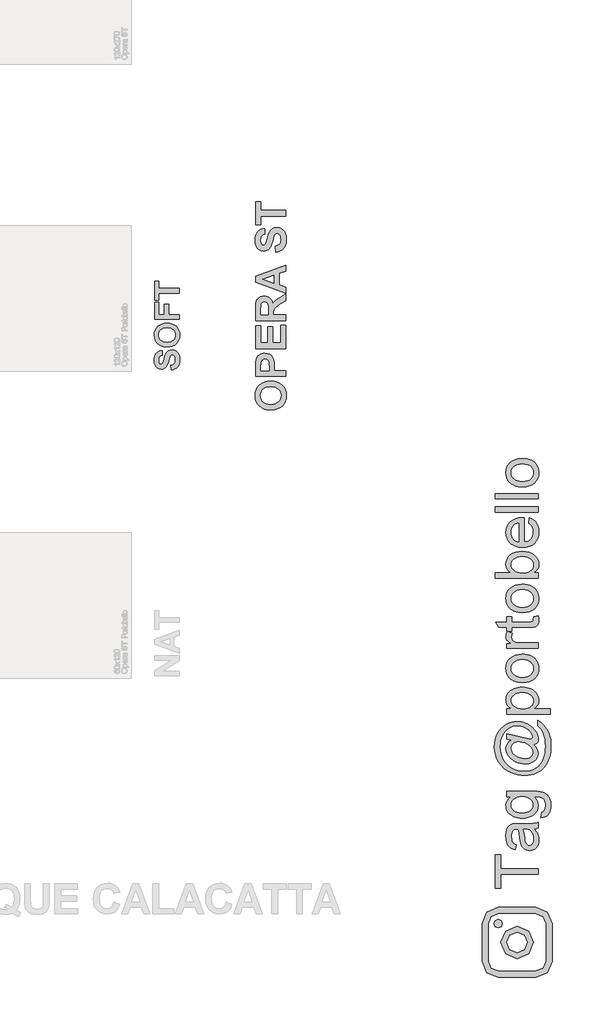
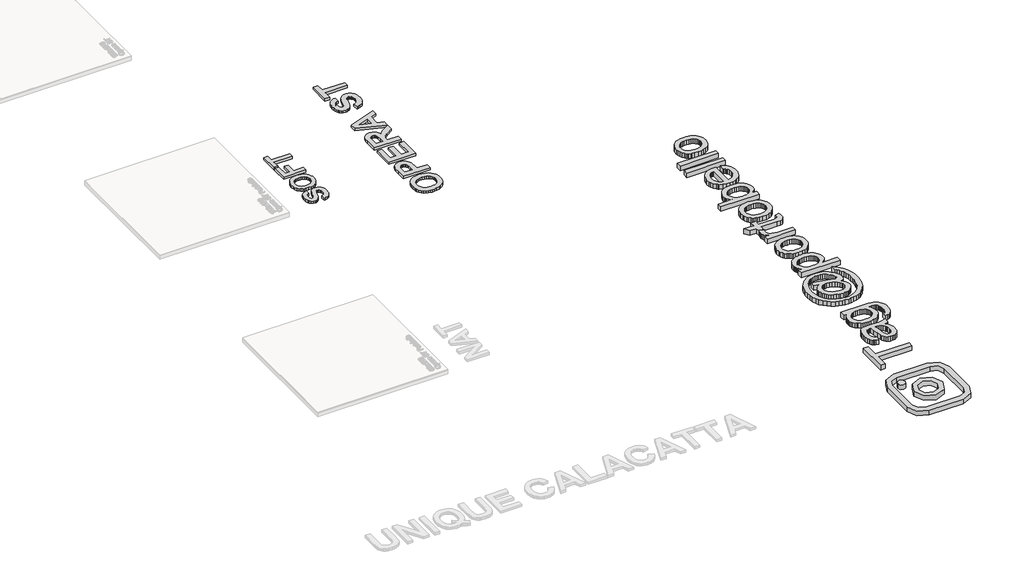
# One storey, part 4 of 6: 5 proxies.
"""IFC4 building model written with IfcOpenShell, lengths in millimetres."""

from ifc_helpers import new_model, si_unit, origin, origin_with_axes, place, context, project, spatial, polyline, outline, extrude, transform, mapped, element, save
from components import generic_models_d67f6705

model = new_model("IFC4")

# Units and contexts
model_context = context("Model", 3, world=origin())
ifc_project = project(units=[si_unit("LENGTHUNIT", "METRE", prefix="MILLI")], contexts=[model_context])

# Site, building, storey
site = spatial("IfcSite", under=ifc_project)
building = spatial("IfcBuilding", under=site)
storey = spatial("IfcBuildingStorey", under=building, Name="PORTOBELLO - SHOWROOM", Elevation=0.0)

# Proxies
placement = place(None, origin())
generic_models_shape = generic_models_d67f6705(model_context)
element("IfcBuildingElementProxy", 1, Name="Blks_Instagram1 : Único", ObjectType="Blks_Instagram1 : Único", at=placement, inside=storey, context=model_context, shape_type="MappedRepresentation", body=[
    mapped(generic_models_shape, transform((1999.5235049, -12631.2406298, 0.0), x_axis=(-1.0, 0.0, 0.0), y_axis=(0.0, -1.0, 0.0), z_axis=(0.0, 0.0, 1.0))),
])
element("IfcBuildingElementProxy", 2, Name="450mm Arial", ObjectType="450mm Arial", at=placement, inside=storey, context=model_context, shape_type="SweptSolid", body=[
    extrude(outline(polyline([(-4423.3659429, -2002.7455376), (-4430.65351, -1915.2947319), (-4391.5397708, -1902.5414894), (-4376.466463, -1892.9196234), (-4364.3821963, -1881.1342609), (-4355.1161686, -1867.1498181), (-4348.4975773, -1850.9307111), (-4343.2027043, -1811.7885048), (-4347.8855356, -1771.1660114), (-4353.7390746, -1755.1461739), (-4361.9340293, -1741.9872758), (-4382.245276, -1724.3946332), (-4405.7163662, -1718.530419), (-4420.5904046, -1720.9643526), (-4433.1016771, -1728.2661533), (-4443.6771896, -1741.6599046), (-4452.7439479, -1762.3696901), (-4472.2154164, -1838.2059357), (-4492.3416272, -1902.9400282), (-4504.0914059, -1926.8096573), (-4516.9656334, -1945.0143416), (-4536.8996916, -1963.8951186), (-4558.8976115, -1977.3813879), (-4582.9593933, -1985.4731495), (-4609.0850368, -1988.1704033), (-4642.9039031, -1983.217135), (-4674.4454046, -1968.3573301), (-4701.2329073, -1944.1603299), (-4720.7897769, -1911.1954754), (-4732.7459417, -1870.0036408), (-4736.73133, -1821.1257002), (-4734.2475791, -1780.6918011), (-4726.7963264, -1745.5883588), (-4714.3775718, -1715.8153733), (-4696.9913155, -1691.3728446), (-4675.463102, -1672.1824884), (-4650.6184761, -1658.1660201), (-4622.4574378, -1649.3234399), (-4590.9799872, -1645.6547476), (-4590.9799872, -1733.1055533), (-4621.0269681, -1742.7701199), (-4641.2528136, -1759.4660501), (-4652.739272, -1784.7305651), (-4656.5680915, -1820.1008861), (-4652.497302, -1857.3357995), (-4640.2849336, -1885.4612539), (-4628.0440982, -1896.9050117), (-4612.2733474, -1900.7195976), (-4597.3850755, -1897.2466164), (-4584.8311024, -1886.8276727), (-4570.1278664, -1856.5814224), (-4554.9406903, -1801.1418247), (-4539.1414725, -1741.9730422), (-4522.6021111, -1700.5392377), (-4502.575535, -1671.5028373), (-4476.3146729, -1649.5262677), (-4443.4921537, -1635.6912769), (-4403.7806062, -1631.0796133), (-4365.8624834, -1636.5310552), (-4330.4494618, -1652.8853806), (-4300.672918, -1679.2174103), (-4279.6642283, -1714.6019649), (-4267.1956564, -1759.4233495), (-4263.0394658, -1814.0658695), (-4265.5979427, -1854.930333), (-4273.2733735, -1890.7561269), (-4286.0657582, -1921.5432514), (-4303.9750968, -1947.2917064), (-4326.7878864, -1968.179411), (-4354.2906239, -1984.3842844), (-4386.4833094, -1995.9063266), (-4423.3659429, -2002.7455376)])), origin_with_axes(), (0.0, 0.0, 1.0), 50.0),
    extrude(outline(polyline([(-4497.038692, -1572.7790762), (-4561.4311798, -1567.6265385), (-4589.4000654, -1561.1858663), (-4614.5507122, -1552.1689254), (-4647.7290696, -1533.9927081), (-4677.3490446, -1510.2084802), (-4701.5887455, -1482.3534628), (-4718.6262804, -1451.9648772), (-4732.2050676, -1406.5883849), (-4736.73133, -1354.7214031), (-4732.8064343, -1307.3949173), (-4721.0317469, -1265.0501668), (-4701.407268, -1227.6871516), (-4673.9329975, -1195.3058718), (-4639.4700641, -1169.1517613), (-4598.8795961, -1150.4702537), (-4552.1615936, -1139.2613491), (-4499.3160567, -1135.5250476), (-4446.8299164, -1139.2328821), (-4400.3930262, -1150.3563855), (-4360.005386, -1168.8955577), (-4325.6669959, -1194.8503989), (-4298.2674515, -1227.0181757), (-4278.6963483, -1264.196155), (-4266.9536864, -1306.3843367), (-4263.0394658, -1353.5827207), (-4266.9358945, -1401.2792783), (-4278.6251806, -1443.8232982), (-4298.1073243, -1481.2147804), (-4325.3823253, -1513.4537249), (-4359.4894205, -1539.4085661), (-4399.4678467, -1557.9477384), (-4445.3176039, -1569.0712417), (-4497.038692, -1572.7790762)]), holes=[polyline([(-4500.2270026, -1485.3282705), (-4463.9101519, -1483.0046468), (-4432.2761324, -1476.0337757), (-4405.3249442, -1464.4156571), (-4383.0565871, -1448.1502912), (-4365.6205134, -1428.3051926), (-4353.166175, -1405.947876), (-4345.693572, -1381.0783415), (-4343.2027043, -1353.696589), (-4345.6757801, -1326.3433035), (-4353.0950074, -1301.5591701), (-4365.4603862, -1279.3441888), (-4382.7719166, -1259.6983596), (-4405.0295984, -1243.6322631), (-4432.2334318, -1232.1564799), (-4464.3834168, -1225.27101), (-4501.4795532, -1222.9758533), (-4538.0597242, -1225.2105175), (-4569.6866269, -1231.9145099), (-4596.3602614, -1243.0878306), (-4618.0806275, -1258.7304796), (-4634.918893, -1278.0738463), (-4646.9462255, -1300.3493201), (-4654.162625, -1325.556901), (-4656.5680915, -1353.696589), (-4654.1341579, -1381.864744), (-4646.8323572, -1407.157726), (-4634.6626894, -1429.5755351), (-4617.6251545, -1449.1181712), (-4595.6841687, -1464.9600897), (-4568.8041481, -1476.2757457), (-4536.9850927, -1483.0651393), (-4500.2270026, -1485.3282705)])]), origin_with_axes(), (0.0, 0.0, 1.0), 50.0),
    extrude(outline(polyline([(-4270.3270329, -1062.6493762), (-4729.4437629, -1062.6493762), (-4729.4437629, -749.2839891), (-4649.2805243, -749.2839891), (-4649.2805243, -975.1985705), (-4547.2545843, -975.1985705), (-4547.2545843, -778.4342576), (-4467.0913458, -778.4342576), (-4467.0913458, -975.1985705), (-4270.3270329, -975.1985705), (-4270.3270329, -1062.6493762)])), origin_with_axes(), (0.0, 0.0, 1.0), 50.0),
    extrude(outline(polyline([(-4270.3270329, -574.3823777), (-4649.2805243, -574.3823777), (-4649.2805243, -705.5585862), (-4729.4437629, -705.5585862), (-4729.4437629, -355.7553634), (-4649.2805243, -355.7553634), (-4649.2805243, -486.9315719), (-4270.3270329, -486.9315719), (-4270.3270329, -574.3823777)])), origin_with_axes(), (0.0, 0.0, 1.0), 50.0),
])
element("IfcBuildingElementProxy", 3, Name="550mm Arial", ObjectType="550mm Arial", at=placement, inside=storey, context=model_context, shape_type="SweptSolid", body=[
    extrude(outline(polyline([(-2570.8501578, -2744.4200701), (-2611.9233796, -2742.8456836), (-2649.5520873, -2738.122524), (-2683.7362809, -2730.2505914), (-2714.4759602, -2719.2298857), (-2755.027286, -2697.0145091), (-2791.2294777, -2667.9448972), (-2820.8557788, -2633.8998759), (-2841.6794325, -2596.7582713), (-2851.3606049, -2570.0197952), (-2858.275728, -2541.298114), (-2863.8078265, -2477.9051363), (-2859.0107317, -2420.0616536), (-2844.6194472, -2368.3069586), (-2820.6339729, -2322.6410512), (-2787.054309, -2283.0639314), (-2744.9329459, -2251.0977963), (-2695.3223739, -2228.2648426), (-2638.2225932, -2214.5650704), (-2573.6336036, -2209.9984796), (-2509.4838765, -2214.5302773), (-2452.7276774, -2228.1256703), (-2403.365006, -2250.7846586), (-2361.3958626, -2282.5072423), (-2327.9075305, -2321.823414), (-2303.9872933, -2367.2631664), (-2289.635151, -2418.8264995), (-2284.8511035, -2476.5134134), (-2289.6134053, -2534.809206), (-2303.9003106, -2586.8074526), (-2327.7118195, -2632.508153), (-2361.0479319, -2671.9113074), (-2402.7343816, -2703.6338911), (-2451.5969025, -2726.2928794), (-2507.6354946, -2739.8882724), (-2570.8501578, -2744.4200701)]), holes=[polyline([(-2574.7469819, -2637.535752), (-2530.3597199, -2634.6957675), (-2491.6959183, -2626.1758139), (-2458.7555771, -2611.9758913), (-2431.5386963, -2592.0959996), (-2410.2279395, -2567.840879), (-2395.0059704, -2540.5152699), (-2385.8727889, -2510.1191721), (-2382.8283951, -2476.6525857), (-2385.8510433, -2443.2207924), (-2394.9189877, -2412.9290738), (-2410.0322285, -2385.77743), (-2431.1907656, -2361.765861), (-2458.394599, -2342.1295208), (-2491.6437287, -2328.1035635), (-2530.9381547, -2319.6879892), (-2576.2778771, -2316.8827977), (-2620.986975, -2319.6140539), (-2659.6420783, -2327.8078224), (-2692.243187, -2341.4641033), (-2718.7903012, -2360.5828965), (-2739.3704035, -2384.2247891), (-2754.0704765, -2411.4503682), (-2762.8905203, -2442.2596337), (-2765.8305349, -2476.6525857), (-2762.8557273, -2511.0803307), (-2753.9313042, -2541.9939755), (-2739.0572658, -2569.3935199), (-2718.233612, -2593.278964), (-2691.4168516, -2612.6413088), (-2658.5634931, -2626.471555), (-2619.6735365, -2634.7697027), (-2574.7469819, -2637.535752)])]), origin_with_axes(), (0.0, 0.0, 1.0), 50.0),
    extrude(outline(polyline([(-2293.75813, -2120.9282146), (-2854.9008, -2120.9282146), (-2854.9008, -1940.1434109), (-2852.8132157, -1855.2135214), (-2846.5504627, -1806.1204964), (-2838.4393277, -1783.0918317), (-2826.6314288, -1762.0202773), (-2811.1267659, -1742.9058332), (-2791.9253392, -1725.7484994), (-2769.3489844, -1711.5920681), (-2743.7195375, -1701.4803315), (-2715.0369985, -1695.4132895), (-2683.3013675, -1693.3909422), (-2636.0349787, -1698.1401966), (-2596.944962, -1712.3879597), (-2565.7007831, -1733.9596645), (-2541.9719078, -1760.680744), (-2525.3582158, -1790.2026658), (-2515.4595867, -1820.1768976), (-2509.5099713, -1870.4528871), (-2507.5267662, -1939.1692049), (-2507.5267662, -2014.0438965), (-2293.75813, -2014.0438965), (-2293.75813, -2120.9282146)]), holes=[polyline([(-2756.9235084, -2014.0438965), (-2605.5040578, -2014.0438965), (-2605.5040578, -1947.6587145), (-2607.5916421, -1887.8668198), (-2613.8543952, -1851.8385934), (-2624.588058, -1830.3016817), (-2640.0883717, -1813.9837308), (-2659.4159233, -1803.7023779), (-2681.6313, -1800.2752603), (-2708.1784141, -1805.0941008), (-2729.6457398, -1819.5506223), (-2745.0242777, -1841.3484821), (-2753.3050289, -1868.1913374), (-2756.9235084, -1955.4523627), (-2756.9235084, -2014.0438965)])]), origin_with_axes(), (0.0, 0.0, 1.0), 50.0),
    extrude(outline(polyline([(-2293.75813, -1604.3206771), (-2854.9008, -1604.3206771), (-2854.9008, -1185.6904313), (-2756.9235084, -1185.6904313), (-2756.9235084, -1497.436359), (-2632.2251373, -1497.436359), (-2632.2251373, -1203.5044843), (-2534.2478457, -1203.5044843), (-2534.2478457, -1497.436359), (-2391.7354216, -1497.436359), (-2391.7354216, -1176.7834047), (-2293.75813, -1176.7834047), (-2293.75813, -1604.3206771)])), origin_with_axes(), (0.0, 0.0, 1.0), 50.0),
    extrude(outline(polyline([(-2293.75813, -1087.7131397), (-2854.9008, -1087.7131397), (-2854.9008, -851.6769372), (-2851.1083551, -774.7842475), (-2839.7310205, -722.2467083), (-2830.6674252, -703.0757255), (-2818.6464187, -685.9227408), (-2803.6680011, -670.7877544), (-2785.7321723, -657.6707661), (-2765.6130782, -647.0762756), (-2744.0848648, -639.5087824), (-2721.1475318, -634.9682864), (-2696.8010795, -633.4547878), (-2666.4528222, -635.6424022), (-2638.8706141, -642.2052455), (-2614.0544553, -653.1433176), (-2592.0043458, -668.4566185), (-2573.2508798, -688.1277518), (-2558.3246518, -712.1393208), (-2547.2256617, -740.4913256), (-2539.9539096, -773.1837661), (-2517.6167572, -742.1831387), (-2493.1920204, -717.0973336), (-2457.8074659, -691.1417017), (-2402.5908602, -657.5315938), (-2293.75813, -588.9196553), (-2293.75813, -713.7571986), (-2421.9358084, -795.0338155), (-2497.9934644, -858.8443101), (-2511.1974353, -876.5539839), (-2519.4955831, -895.3074499), (-2523.8795102, -920.2018931), (-2525.3408192, -956.3344987), (-2525.3408192, -980.8288216), (-2293.75813, -980.8288216), (-2293.75813, -1087.7131397)]), holes=[polyline([(-2623.3181108, -980.8288216), (-2623.3181108, -892.7327625), (-2624.9359887, -823.1988076), (-2629.7896223, -785.7788583), (-2638.5922696, -766.7470478), (-2652.0571885, -752.3775089), (-2669.8190519, -743.3487066), (-2691.5125325, -740.3391059), (-2715.5371489, -744.3055161), (-2734.4471837, -756.2047468), (-2747.790327, -775.3409366), (-2755.1142687, -801.018224), (-2756.9235084, -887.8617324), (-2756.9235084, -980.8288216), (-2623.3181108, -980.8288216)])]), origin_with_axes(), (0.0, 0.0, 1.0), 50.0),
    extrude(outline(polyline([(-2293.75813, -54.4980648), (-2293.75813, -166.8101022), (-2418.4565011, -210.7885455), (-2418.4565011, -422.6087697), (-2293.75813, -466.0305239), (-2293.75813, -580.0126287), (-2854.9008, -375.4293636), (-2854.9008, -261.3080865), (-2293.75813, -54.4980648)]), holes=[polyline([(-2516.4337927, -245.0249287), (-2721.2954024, -317.2553468), (-2516.4337927, -388.5115588), (-2516.4337927, -245.0249287)])]), origin_with_axes(), (0.0, 0.0, 1.0), 50.0),
    extrude(outline(polyline([(-2480.8056867, 185.9916509), (-2489.7127132, 292.875969), (-2463.9832362, 299.3474804), (-2441.9070319, 308.4632654), (-2423.4841001, 320.2233238), (-2408.7144409, 334.6276558), (-2397.3892959, 351.7197525), (-2389.2999066, 371.5431055), (-2384.446273, 394.0977146), (-2382.8283951, 419.3835799), (-2384.2592602, 445.9567888), (-2388.5518555, 469.033294), (-2395.706181, 488.6130955), (-2405.7222367, 504.6961931), (-2417.6519113, 517.2390957), (-2430.5470938, 526.1983118), (-2444.4077839, 531.5738415), (-2459.2339819, 533.3656847), (-2477.4133621, 530.390877), (-2492.7049174, 521.466454), (-2505.6305438, 505.0963135), (-2516.7121373, 479.7843534), (-2540.5105988, 387.0956088), (-2552.1227866, 344.0739749), (-2565.1093009, 307.9761624), (-2579.4701415, 278.8021713), (-2595.2053084, 256.5520015), (-2619.5691573, 233.4754963), (-2646.4555039, 216.9922783), (-2675.8643483, 207.1023475), (-2707.7956904, 203.8057039), (-2749.1298602, 209.8596985), (-2787.6805843, 228.0216822), (-2805.1554049, 241.4692047), (-2820.4208654, 257.5957937), (-2833.4769657, 276.4014493), (-2844.323706, 297.8861714), (-2858.9367964, 348.231747), (-2863.8078265, 407.9714522), (-2860.772131, 457.3906622), (-2851.6650443, 500.2948695), (-2836.4865665, 536.684074), (-2815.2366976, 566.5582757), (-2788.9244367, 590.0131555), (-2758.5587828, 607.1443945), (-2724.1397361, 617.9519926), (-2685.6672964, 622.4359498), (-2685.6672964, 515.5516317), (-2722.3913842, 503.7393836), (-2736.2520744, 494.6105513), (-2747.111862, 483.3332467), (-2755.3012814, 469.4377635), (-2761.1508667, 452.4543951), (-2765.8305349, 409.2240028), (-2760.8551256, 363.7146642), (-2754.6358639, 345.1351636), (-2745.9288976, 329.3391088), (-2730.9678765, 315.3522937), (-2711.6925144, 310.690022), (-2693.4957376, 314.9347768), (-2678.1519928, 327.6690413), (-2669.2406171, 342.3038773), (-2660.1813709, 364.6366806), (-2641.6192668, 432.3961889), (-2622.3091117, 504.7135897), (-2602.0943367, 555.3549064), (-2577.6174104, 590.8438401), (-2545.5208012, 617.7040919), (-2526.5150854, 627.5679279), (-2505.4043888, 634.6135251), (-2456.868053, 640.2500028), (-2433.313143, 638.5842845), (-2410.5236807, 633.5871294), (-2388.4996659, 625.2585378), (-2367.2410987, 613.5985094), (-2347.7047886, 598.8897381), (-2330.8475451, 581.4149175), (-2316.6693681, 561.1740477), (-2305.1702578, 538.1671287), (-2296.2806278, 512.2767338), (-2289.9308921, 483.3854363), (-2284.8511035, 416.6001341), (-2287.9781309, 366.6546788), (-2297.359213, 322.8675973), (-2312.9943499, 285.2388896), (-2334.8835415, 253.7685557), (-2362.7658398, 228.2391389), (-2396.3802968, 208.4331825), (-2435.7269124, 194.3506865), (-2480.8056867, 185.9916509)])), origin_with_axes(), (0.0, 0.0, 1.0), 50.0),
    extrude(outline(polyline([(-2293.75813, 854.018639), (-2756.9235084, 854.018639), (-2756.9235084, 693.6921618), (-2854.9008, 693.6921618), (-2854.9008, 1121.2294342), (-2756.9235084, 1121.2294342), (-2756.9235084, 960.9029571), (-2293.75813, 960.9029571), (-2293.75813, 854.018639)])), origin_with_axes(), (0.0, 0.0, 1.0), 50.0),
])
element("IfcBuildingElementProxy", 4, Name="80mm Arial", ObjectType="80mm Arial", at=placement, inside=storey, context=model_context, shape_type="SweptSolid", body=[
    extrude(outline(polyline([(2391.2364896, -11363.1133966), (1691.7713786, -11363.1133966), (1691.7713786, -11625.4128133), (1591.8477913, -11625.4128133), (1591.8477913, -11000.8903927), (1691.7713786, -11000.8903927), (1691.7713786, -11263.1898093), (2391.2364896, -11263.1898093), (2391.2364896, -11363.1133966)])), origin_with_axes(), (0.0, 0.0, 1.0), 100.0),
    extrude(outline(polyline([(2316.2937991, -10526.2533531), (2357.2292922, -10573.9951647), (2372.3910377, -10598.3966706), (2384.0154491, -10623.1519099), (2398.7990658, -10674.8457774), (2403.726938, -10730.198956), (2400.7628961, -10774.6900796), (2391.8707702, -10813.7044344), (2377.0505604, -10847.2420202), (2356.3022667, -10875.3028372), (2330.9432411, -10897.4599656), (2302.2908355, -10913.286486), (2270.3450499, -10922.7823982), (2235.1058845, -10925.9477022), (2193.6824833, -10921.1662025), (2156.0647656, -10906.8217031), (2123.8628283, -10884.6950689), (2098.6867682, -10856.5671646), (2079.6583507, -10823.511388), (2065.8993411, -10786.6011371), (2050.8717704, -10700.1438145), (2035.0635466, -10597.9758498), (2016.5230373, -10526.8388428), (1994.274426, -10526.2533531), (1970.0497868, -10527.9732293), (1949.6796219, -10533.1328579), (1933.1639313, -10541.7322388), (1920.5027151, -10553.7713722), (1907.8658942, -10574.5806544), (1898.8395936, -10599.9274824), (1893.4238133, -10629.811856), (1891.6185531, -10664.2337754), (1896.4244483, -10723.7585686), (1902.4318173, -10746.7878328), (1910.8421339, -10765.3283422), (1922.3140741, -10780.5632739), (1937.5063138, -10793.6758052), (1956.4188531, -10804.6659361), (1979.051692, -10813.5336665), (1966.5612436, -10913.4572538), (1911.9155318, -10896.1121194), (1888.9838492, -10884.237655), (1868.9796154, -10870.2285925), (1851.5003062, -10853.4811456), (1836.1433975, -10833.3915279), (1822.9088892, -10809.9597394), (1811.7967813, -10783.1857802), (1796.7204197, -10721.7825406), (1791.6949658, -10651.3530004), (1796.1349299, -10583.8021183), (1809.4548222, -10530.2541998), (1829.4834514, -10489.8798011), (1854.0496263, -10461.8494784), (1884.4219081, -10443.2601783), (1921.8688579, -10431.2088472), (1956.4127543, -10427.5495361), (2009.3019968, -10426.3297658), (2133.6209911, -10426.3297658), (2241.912203, -10425.0612046), (2307.2187077, -10421.2555211), (2350.1302287, -10413.7417357), (2391.2364896, -10401.3488689), (2391.2364896, -10501.2724562), (2356.49743, -10517.2758433), (2316.2937991, -10526.2533531)]), holes=[polyline([(2116.4466245, -10526.2533531), (2133.0842922, -10593.3895133), (2147.0872558, -10687.4582029), (2154.7474136, -10739.2984429), (2163.2858061, -10773.4276173), (2174.3613209, -10795.7982056), (2189.6328457, -10812.362687), (2207.929401, -10822.608758), (2228.0800072, -10826.0241149), (2243.6076838, -10824.1639652), (2257.793613, -10818.5835158), (2270.6377948, -10809.2827669), (2282.1402293, -10796.2617183), (2291.6178449, -10779.6423473), (2298.3875704, -10759.5466307), (2303.8033507, -10708.9261611), (2297.826476, -10655.2562656), (2290.3553826, -10630.7632769), (2279.8958518, -10607.8315943), (2253.475626, -10569.3844327), (2222.0299463, -10542.6470666), (2189.6328457, -10530.7908988), (2144.7452967, -10526.8388428), (2116.4466245, -10526.2533531)])]), origin_with_axes(), (0.0, 0.0, 1.0), 100.0),
    extrude(outline(polyline([(2441.1982832, -10313.9157301), (2453.6887317, -10213.9921428), (2470.5215625, -10209.7717374), (2484.9148527, -10202.9654188), (2496.8686021, -10193.5731871), (2506.3828109, -10181.5950422), (2516.1165783, -10162.2128913), (2523.0692693, -10139.5861513), (2528.6314221, -10084.5989038), (2527.0579184, -10053.3971781), (2522.3374071, -10025.9523452), (2514.4698883, -10002.264405), (2503.455362, -9982.3333574), (2489.5987708, -9965.7444806), (2473.2050573, -9952.0830526), (2454.2742214, -9941.3490735), (2432.8062632, -9933.5425433), (2389.821556, -9928.1267629), (2316.2937991, -9926.7118293), (2349.0812262, -9959.9627691), (2372.500817, -9997.0681832), (2386.5525714, -10038.0280717), (2391.2364896, -10082.8424345), (2385.7841161, -10137.6284198), (2369.4269957, -10185.8642384), (2357.1591554, -10207.5258352), (2342.1651283, -10227.5498902), (2303.998514, -10262.6853753), (2258.2083349, -10290.5632267), (2208.0757734, -10310.4759777), (2153.6008295, -10322.4236283), (2094.7835031, -10326.4061785), (2053.6345502, -10324.6192149), (2014.107892, -10319.2583242), (1976.2035282, -10310.3235064), (1939.9214591, -10297.8147614), (1906.4692572, -10281.9211537), (1877.0544951, -10262.8317477), (1851.6771729, -10240.5465434), (1830.3372906, -10215.0655407), (1813.4312735, -10186.7973628), (1801.355547, -10156.1506326), (1794.1101111, -10123.1253503), (1791.6949658, -10087.7215159), (1797.159537, -10040.9921136), (1813.5532506, -9998.5806985), (1840.8761065, -9960.4872704), (1879.1281047, -9926.7118293), (1804.1854143, -9926.7118293), (1804.1854143, -9826.788242), (2311.0243912, -9826.788242), (2374.5317346, -9828.4959205), (2428.0491588, -9833.618956), (2471.5766639, -9842.1573485), (2505.1142497, -9854.1110979), (2532.1626573, -9869.7668504), (2556.2226275, -9889.4112519), (2577.2941603, -9913.0443025), (2595.3772558, -9940.6660021), (2609.892523, -9971.9958036), (2620.260571, -10006.7531598), (2626.4813998, -10044.9380707), (2628.5550094, -10086.5505363), (2625.6336594, -10135.5060194), (2616.8696094, -10179.5214326), (2602.2628595, -10218.5967759), (2581.8134095, -10252.7320492), (2555.4968641, -10280.304958), (2523.288828, -10299.6932078), (2485.189301, -10310.8967984), (2441.1982832, -10313.9157301)]), holes=[polyline([(2087.9527891, -10226.4825912), (2137.3595872, -10223.817393), (2179.6063334, -10215.8217983), (2214.6930276, -10202.4958072), (2242.6196698, -10183.8394197), (2263.922959, -10161.1577899), (2279.1395942, -10135.7560724), (2288.2695753, -10107.6342669), (2291.3129023, -10076.7923735), (2288.2878718, -10046.2554227), (2279.2127804, -10018.267792), (2264.087628, -9992.8294813), (2242.9124147, -9969.9404906), (2215.2602208, -9951.0279513), (2180.7041267, -9937.5189946), (2139.2441324, -9929.4136206), (2090.880238, -9926.7118293), (2044.5350634, -9929.4929057), (2004.2521475, -9937.8361349), (1970.0314903, -9951.7415169), (1941.8730917, -9971.2090518), (1919.8867311, -9994.5920494), (1904.1821878, -10020.24382), (1894.7594618, -10048.1643633), (1891.6185531, -10078.3536796), (1894.710671, -10108.0367911), (1903.9870245, -10135.4145367), (1919.4476137, -10160.4869163), (1941.0924386, -10183.2539299), (1968.8239176, -10202.1664692), (2002.544469, -10215.6754259), (2042.2540928, -10223.7807999), (2087.9527891, -10226.4825912)])]), origin_with_axes(), (0.0, 0.0, 1.0), 100.0),
])
element("IfcBuildingElementProxy", 5, Name="80mm Arial", ObjectType="80mm Arial", at=placement, inside=storey, context=model_context, shape_type="SweptSolid", body=[
    extrude(outline(polyline([(2299.7049223, -8955.7052888), (2337.0054997, -8992.9570753), (2366.1580111, -9034.4536627), (2384.96687, -9078.1458368), (2391.2364896, -9121.9843833), (2389.4434272, -9145.9162776), (2384.0642399, -9169.5066362), (2375.0989278, -9192.7554591), (2362.5474909, -9215.6627463), (2346.2757544, -9237.3319667), (2326.1495436, -9256.8665889), (2302.1688584, -9274.2666129), (2274.333699, -9289.5320389), (2243.8394402, -9301.9553999), (2211.8814569, -9310.8292293), (2178.4597493, -9316.1535268), (2143.5743172, -9317.9282927), (2099.7357707, -9315.1777106), (2055.8484334, -9306.9259641), (2011.9123053, -9293.1730534), (1967.9273864, -9273.9189784), (1926.6625554, -9250.5725738), (1890.8866909, -9224.5426745), (1860.5997931, -9195.8292804), (1835.8018618, -9164.4323915), (1816.5050948, -9131.9316105), (1802.7216898, -9099.9065399), (1794.4516468, -9068.3571797), (1791.6949658, -9037.28353), (1793.2623707, -9014.120091), (1797.9645855, -8991.4689555), (1816.7734443, -8947.7035953), (1830.9532746, -8927.0772786), (1848.4142872, -8907.9390818), (1893.1798592, -8874.1270476), (1804.1854143, -8855.7817015), (1804.1854143, -8755.8581142), (2170.7020098, -8838.6073349), (2255.2076999, -8855.7817015), (2268.9911049, -8852.9762297), (2280.6765048, -8844.5598142), (2288.6538029, -8832.1913429), (2291.3129023, -8817.5297032), (2289.3368743, -8801.8556542), (2283.4087904, -8783.9128323), (2259.6964548, -8741.22087), (2237.3319653, -8711.6231423), (2211.4179442, -8685.2822016), (2181.9543913, -8662.1980477), (2148.9413067, -8642.3706806), (2113.879008, -8626.4465786), (2078.2678125, -8615.0722201), (2042.1077204, -8608.247605), (2005.3987316, -8605.9727332), (1962.9751188, -8608.9001821), (1921.9664395, -8617.6825286), (1882.3726939, -8632.3197729), (1844.1938818, -8652.8119148), (1808.5948841, -8679.1162624), (1776.7405813, -8711.1901239), (1748.6309735, -8749.0334991), (1724.2660607, -8792.646388), (1704.5850661, -8840.3577054), (1690.5272128, -8890.4963657), (1682.0925008, -8943.0623691), (1679.2809301, -8998.0557154), (1682.8487584, -9060.7885047), (1693.5522433, -9120.7646129), (1711.3913847, -9177.9840401), (1736.3661826, -9232.4467864), (1768.0009267, -9282.5427548), (1805.8199065, -9326.6618484), (1849.823122, -9364.8040674), (1900.0105732, -9396.9694116), (1954.241563, -9422.499205), (2010.3753947, -9440.7347718), (2068.4120681, -9451.6761119), (2128.3515832, -9455.3232252), (2190.0414688, -9451.712705), (2247.2791926, -9440.8811443), (2300.0647546, -9422.828543), (2348.3981548, -9397.5549013), (2391.4926414, -9365.4444468), (2428.5614624, -9326.8814071), (2459.6046179, -9281.8657822), (2484.6221078, -9230.3975722), (2503.8761828, -9174.2332463), (2517.6290935, -9115.1292739), (2525.88084, -9053.0856549), (2528.6314221, -8988.1023893), (2525.8991365, -8919.8562381), (2517.7022798, -8857.3917983), (2504.0408518, -8800.7090701), (2484.9148527, -8749.8080532), (2461.8855884, -8704.8107249), (2436.5143651, -8665.8390622), (2408.8011827, -8632.8930649), (2378.7460412, -8605.9727332), (2378.7460412, -8506.049146), (2408.0571228, -8522.2781905), (2437.6365538, -8543.447305), (2467.4843343, -8569.5564894), (2497.6004644, -8600.6057437), (2526.2711665, -8635.7168333), (2551.7826634, -8674.0115235), (2574.1349551, -8715.4898144), (2593.3280416, -8760.1517058), (2608.73984, -8808.7717521), (2619.7482675, -8862.1245073), (2626.3533239, -8920.2099715), (2628.5550094, -8983.0281447), (2626.6094757, -9041.8759653), (2620.7728746, -9098.3940246), (2611.045206, -9152.5823225), (2597.42647, -9204.4408591), (2579.9105678, -9253.2621675), (2558.4914004, -9298.3387808), (2533.1689678, -9339.6706992), (2503.9432702, -9377.2579227), (2471.5766639, -9410.7650143), (2436.8315054, -9439.8565372), (2399.7077947, -9464.5324914), (2360.2055318, -9484.792877), (2307.657825, -9504.6873314), (2253.060904, -9518.897656), (2196.4147689, -9527.4238508), (2137.7194195, -9530.2659157), (2071.9615998, -9526.8749541), (2007.7894815, -9516.7020694), (1945.2030647, -9499.7472615), (1884.2023494, -9476.0105304), (1814.6571427, -9439.5515946), (1753.7601079, -9396.1399677), (1701.5112448, -9345.7756499), (1657.9105536, -9288.458641), (1623.5435239, -9224.4328952), (1598.9956455, -9153.9423665), (1584.2669185, -9076.9870549), (1579.3573428, -8993.5669605), (1582.7970952, -8928.1384788), (1593.1163524, -8866.1253541), (1610.3151144, -8807.5275863), (1634.3933812, -8752.3451756), (1665.2901642, -8701.6881128), (1702.944475, -8656.6663891), (1747.3563135, -8617.2800044), (1798.5256798, -8583.5289588), (1846.4016662, -8560.560683), (1896.3512621, -8544.1547718), (1948.3744676, -8534.311225), (2002.4712828, -8531.0300428), (2041.2020409, -8532.7316224), (2078.8411046, -8537.8363613), (2115.3884738, -8546.3442596), (2150.8441485, -8558.2553171), (2185.2081288, -8573.5695338), (2218.4804145, -8592.2869099), (2250.6610059, -8614.4074452), (2281.7499027, -8639.9311399), (2329.6502845, -8689.7465611), (2363.8648429, -8741.8063597), (2375.8399383, -8768.6779006), (2384.3935779, -8796.1105358), (2389.5257617, -8824.1042654), (2391.2364896, -8852.6590894), (2388.3578316, -8885.9832154), (2379.7218575, -8912.1838826), (2365.7676846, -8931.8465807), (2346.9344304, -8945.5567994), (2328.1987578, -8951.6068604), (2299.7049223, -8955.7052888)]), holes=[polyline([(2145.1356232, -9218.0047054), (2177.8498641, -9215.8152176), (2206.7096306, -9209.2467543), (2231.7149229, -9198.2993154), (2252.8657408, -9182.9729009), (2269.686374, -9164.8166192), (2281.7011119, -9145.3795786), (2288.9099547, -9124.6617792), (2291.3129023, -9102.6632209), (2287.0681015, -9071.6078677), (2274.333699, -9038.9424176), (2253.2560673, -9006.2281768), (2223.9815788, -8975.0264512), (2186.1199071, -8947.3376642), (2139.2807255, -8925.1622391), (2087.8552075, -8910.5981811), (2036.2345262, -8905.7434951), (2003.8069313, -8908.0183668), (1975.2216131, -8914.842982), (1950.4785715, -8926.2173405), (1929.5778065, -8942.1414425), (1912.9706332, -8961.334529), (1901.1083665, -8982.5158411), (1893.9910065, -9005.685379), (1891.6185531, -9030.8431425), (1895.7413769, -9064.3624318), (1908.1098483, -9095.8325069), (1929.5778065, -9125.8144622), (1960.9990908, -9154.869392), (2001.3246987, -9180.6309418), (2049.5056276, -9200.7327572), (2099.4674212, -9213.6867184), (2145.1356232, -9218.0047054)])]), origin_with_axes(), (0.0, 0.0, 1.0), 100.0),
    extrude(outline(polyline([(2616.064561, -8393.6351103), (1804.1854143, -8393.6351103), (1804.1854143, -8293.711523), (1902.157369, -8293.711523), (1853.8300676, -8261.1192591), (1834.8443421, -8243.3594028), (1819.3105666, -8224.6237302), (1807.2287413, -8204.3755423), (1798.598866, -8182.0781403), (1793.4209409, -8157.731524), (1791.6949658, -8131.3356936), (1794.1101111, -8096.4868546), (1801.355547, -8063.7604161), (1813.4312735, -8033.1563779), (1830.3372906, -8004.6747402), (1851.634481, -7978.9375857), (1876.8837273, -7956.5669975), (1906.0850295, -7937.5629754), (1939.2383877, -7921.9255195), (1975.2094154, -7909.7156182), (2012.8637262, -7900.9942602), (2052.2013201, -7895.7614454), (2093.222197, -7894.0171738), (2137.0790401, -7895.9871029), (2178.6793079, -7901.8968903), (2218.0230007, -7911.7465359), (2255.1101182, -7925.5360397), (2288.9709432, -7943.0763374), (2318.6357582, -7964.1783645), (2344.1045632, -7988.842121), (2365.3773581, -8017.067607), (2382.1552993, -8047.470383), (2394.139543, -8078.6660098), (2401.3300893, -8110.6544873), (2403.726938, -8143.4358155), (2402.12294, -8167.0200753), (2397.310946, -8189.372367), (2389.2909559, -8210.4926906), (2378.0629698, -8230.3810462), (2349.00804, -8265.486037), (2313.171187, -8293.711523), (2616.064561, -8293.711523), (2616.064561, -8393.6351103)]), holes=[polyline([(2102.3948701, -8293.711523), (2150.5514036, -8291.0097316), (2191.9748048, -8282.9043576), (2226.6650736, -8269.395401), (2254.6222101, -8250.4828617), (2276.1389591, -8227.715848), (2291.5080656, -8202.6434684), (2300.7295294, -8175.2657229), (2303.8033507, -8145.5826113), (2300.6197501, -8115.4725802), (2291.0689482, -8087.5947288), (2275.1509451, -8061.9490571), (2252.8657408, -8038.5355652), (2223.8961949, -8019.0253384), (2187.9251672, -8005.0894621), (2144.9526577, -7996.7279363), (2094.9786663, -7993.9407611), (2047.2368547, -7996.660849), (2005.8866398, -8004.8211126), (1970.9280215, -8018.4215521), (1942.3609998, -8037.4621673), (1920.1611794, -8060.2840706), (1904.3041648, -8085.2283743), (1894.7899561, -8112.2950784), (1891.6185531, -8141.4841829), (1894.9912182, -8170.5818047), (1905.1092132, -8197.9595503), (1921.9725384, -8223.6174196), (1945.5811935, -8247.5554128), (1975.6180385, -8267.748711), (2011.7659329, -8282.1724954), (2054.0248767, -8290.8267661), (2102.3948701, -8293.711523)])]), origin_with_axes(), (0.0, 0.0, 1.0), 100.0),
    extrude(outline(polyline([(2097.7109519, -7806.5840349), (2021.6826658, -7801.1804522), (1987.6114305, -7794.4259739), (1956.1688002, -7784.9697043), (1927.354775, -7772.8116433), (1901.169355, -7757.9517909), (1877.6125401, -7740.3901473), (1856.6843302, -7720.1267123), (1828.2514833, -7682.0454819), (1807.9423069, -7640.0121955), (1795.7568011, -7594.0268532), (1791.6949658, -7544.089455), (1796.6411346, -7488.9619339), (1811.479641, -7439.1160185), (1836.2104849, -7394.5517086), (1870.8336663, -7355.2690044), (1914.1782058, -7323.2073407), (1965.0731238, -7300.3061523), (2023.5184202, -7286.5654393), (2089.5140952, -7281.9852016), (2143.0010251, -7284.0100204), (2190.4622895, -7290.0844768), (2231.8978884, -7300.2085707), (2267.3078218, -7314.3823022), (2297.8935634, -7332.4288046), (2324.856587, -7354.1712111), (2348.1968927, -7379.6095218), (2367.9144805, -7408.7437367), (2383.5824306, -7440.4394693), (2394.7738236, -7473.5623332), (2401.4886594, -7508.1123285), (2403.726938, -7544.089455), (2398.7990658, -7600.0220245), (2384.0154491, -7650.3314527), (2359.376088, -7695.0177396), (2324.8809824, -7734.0808851), (2281.1156222, -7765.8010132), (2228.665497, -7788.4582475), (2167.5306069, -7802.052588), (2097.7109519, -7806.5840349)]), holes=[polyline([(2097.5157887, -7706.6604476), (2145.9833636, -7703.7695919), (2187.9495626, -7695.0970247), (2223.4143856, -7680.642746), (2252.3778326, -7660.4067558), (2274.8764968, -7635.7917901), (2290.9469712, -7608.2005847), (2300.5892558, -7577.6331397), (2303.8033507, -7544.089455), (2300.5709593, -7510.7165382), (2290.873785, -7480.2710702), (2274.7118278, -7452.753051), (2252.0850878, -7428.1624807), (2222.8349947, -7407.9264905), (2186.8029785, -7393.4722119), (2143.9890391, -7384.7996446), (2094.3931766, -7381.9087889), (2047.4625122, -7384.8179412), (2006.5941066, -7393.5453981), (1971.7879596, -7408.0911595), (1943.0440712, -7428.4552256), (1920.545407, -7453.1372787), (1904.4749327, -7480.6370013), (1894.832648, -7510.9543934), (1891.6185531, -7544.089455), (1894.8204503, -7577.6331397), (1904.4261418, -7608.2005847), (1920.4356277, -7635.7917901), (1942.8489079, -7660.4067558), (1971.726971, -7680.642746), (2007.1308055, -7695.0970247), (2049.0604114, -7703.7695919), (2097.5157887, -7706.6604476)])]), origin_with_axes(), (0.0, 0.0, 1.0), 100.0),
    extrude(outline(polyline([(2391.2364896, -7169.5711659), (1804.1854143, -7169.5711659), (1804.1854143, -7082.138027), (1891.0330634, -7082.138027), (1840.6809432, -7049.8385081), (1823.2626226, -7034.6401695), (1811.0161282, -7020.0761115), (1796.5252564, -6990.2161333), (1791.6949658, -6957.6238694), (1793.622203, -6932.8381359), (1799.4039145, -6907.857239), (1809.0401003, -6882.681179), (1822.5307604, -6857.3099556), (1912.1106951, -6890.6828725), (1896.7415886, -6925.8122586), (1891.6185531, -6960.9416448), (1896.5464254, -6990.7772276), (1911.330042, -7017.4414075), (1934.8472144, -7038.982552), (1965.9757538, -7053.4490283), (2021.7924452, -7065.5979411), (2082.6833812, -7069.6475786), (2391.2364896, -7069.6475786), (2391.2364896, -7169.5711659)])), origin_with_axes(), (0.0, 0.0, 1.0), 100.0),
    extrude(outline(polyline([(2307.9017791, -6582.5200906), (2394.1639384, -6570.0296422), (2401.3361881, -6609.5989924), (2403.726938, -6644.7771694), (2399.5797188, -6692.7385396), (2387.1380612, -6728.5022064), (2367.9632713, -6753.7758481), (2343.616655, -6770.2671433), (2301.8029273, -6779.3422347), (2230.226803, -6782.3672652), (1904.1090015, -6782.3672652), (1904.1090015, -6857.3099556), (1804.1854143, -6857.3099556), (1804.1854143, -6782.3672652), (1661.5210738, -6782.3672652), (1602.7769336, -6682.4436779), (1804.1854143, -6682.4436779), (1804.1854143, -6582.5200906), (1904.1090015, -6582.5200906), (1904.1090015, -6682.4436779), (2227.2993542, -6682.4436779), (2260.1843629, -6681.1263259), (2278.8224539, -6677.1742699), (2289.1417111, -6670.2703697), (2297.0702184, -6660.097485), (2302.1200676, -6645.6797994), (2303.8033507, -6626.0414968), (2307.9017791, -6582.5200906)])), origin_with_axes(), (0.0, 0.0, 1.0), 100.0),
    extrude(outline(polyline([(2097.7109519, -6507.5774001), (2021.6826658, -6502.1738174), (1987.6114305, -6495.4193391), (1956.1688002, -6485.9630695), (1927.354775, -6473.8050085), (1901.169355, -6458.9451561), (1877.6125401, -6441.3835125), (1856.6843302, -6421.1200775), (1828.2514833, -6383.0388471), (1807.9423069, -6341.0055607), (1795.7568011, -6295.0202184), (1791.6949658, -6245.0828202), (1796.6411346, -6189.9552991), (1811.479641, -6140.1093836), (1836.2104849, -6095.5450738), (1870.8336663, -6056.2623696), (1914.1782058, -6024.2007059), (1965.0731238, -6001.2995175), (2023.5184202, -5987.5588045), (2089.5140952, -5982.9785668), (2143.0010251, -5985.0033856), (2190.4622895, -5991.077842), (2231.8978884, -6001.2019359), (2267.3078218, -6015.3756674), (2297.8935634, -6033.4221697), (2324.856587, -6055.1645763), (2348.1968927, -6080.602887), (2367.9144805, -6109.7371019), (2383.5824306, -6141.4328345), (2394.7738236, -6174.5556984), (2401.4886594, -6209.1056936), (2403.726938, -6245.0828202), (2398.7990658, -6301.0153897), (2384.0154491, -6351.3248179), (2359.376088, -6396.0111048), (2324.8809824, -6435.0742503), (2281.1156222, -6466.7943784), (2228.665497, -6489.4516127), (2167.5306069, -6503.0459532), (2097.7109519, -6507.5774001)]), holes=[polyline([(2097.5157887, -6407.6538128), (2145.9833636, -6404.7629571), (2187.9495626, -6396.0903899), (2223.4143856, -6381.6361112), (2252.3778326, -6361.400121), (2274.8764968, -6336.7851553), (2290.9469712, -6309.1939499), (2300.5892558, -6278.6265049), (2303.8033507, -6245.0828202), (2300.5709593, -6211.7099034), (2290.873785, -6181.2644353), (2274.7118278, -6153.7464162), (2252.0850878, -6129.1558459), (2222.8349947, -6108.9198557), (2186.8029785, -6094.465577), (2143.9890391, -6085.7930098), (2094.3931766, -6082.9021541), (2047.4625122, -6085.8113064), (2006.5941066, -6094.5387633), (1971.7879596, -6109.0845247), (1943.0440712, -6129.4485908), (1920.545407, -6154.1306439), (1904.4749327, -6181.6303665), (1894.832648, -6211.9477586), (1891.6185531, -6245.0828202), (1894.8204503, -6278.6265049), (1904.4261418, -6309.1939499), (1920.4356277, -6336.7851553), (1942.8489079, -6361.400121), (1971.726971, -6381.6361112), (2007.1308055, -6396.0903899), (2049.0604114, -6404.7629571), (2097.5157887, -6407.6538128)])]), origin_with_axes(), (0.0, 0.0, 1.0), 100.0),
    extrude(outline(polyline([(2391.2364896, -5770.6409438), (2391.2364896, -5870.5645311), (1591.8477913, -5870.5645311), (1591.8477913, -5770.6409438), (1888.3007778, -5770.6409438), (1846.0357351, -5737.7803305), (1815.8464188, -5700.6749164), (1805.2801581, -5680.530409), (1797.7328291, -5659.3247014), (1791.6949658, -5613.7296856), (1797.1351416, -5562.2553768), (1813.4556689, -5513.6109351), (1839.6319407, -5470.5774371), (1874.6393498, -5435.935959), (1918.1363606, -5408.783871), (1969.7814373, -5388.2185428), (2027.4277842, -5375.2645817), (2088.9286054, -5370.9465946), (2159.8948445, -5375.417053), (2222.3226912, -5388.828428), (2276.2121453, -5411.1807197), (2321.5632071, -5442.4739281), (2357.5098393, -5480.0367561), (2383.1860053, -5521.1979067), (2398.5917048, -5565.9573798), (2403.726938, -5614.3151754), (2402.0710998, -5638.5306663), (2397.103585, -5661.4105087), (2388.8243937, -5682.9547026), (2377.233526, -5703.1632479), (2362.3309817, -5722.0361447), (2344.1167609, -5739.5733929), (2297.7532898, -5770.6409438), (2391.2364896, -5770.6409438)]), holes=[polyline([(2093.6125235, -5770.6409438), (2138.646445, -5768.9332653), (2176.947234, -5763.8102298), (2208.5148908, -5755.2718374), (2233.3494151, -5743.3180879), (2264.173012, -5719.1056464), (2286.1898668, -5690.9655444), (2299.3999797, -5658.8977818), (2303.8033507, -5622.9023587), (2300.5587616, -5593.0179851), (2290.8249942, -5565.2316164), (2274.6020485, -5539.5432528), (2251.8899245, -5515.9528942), (2222.7496108, -5496.2292076), (2187.2420958, -5482.14086), (2145.3673796, -5473.6878515), (2097.1254622, -5470.8701819), (2047.9687169, -5473.5719733), (2005.6914765, -5481.6773473), (1970.2937409, -5495.1863039), (1941.77551, -5514.0988432), (1919.8318414, -5536.8414615), (1904.1577924, -5561.8406548), (1894.7533629, -5589.0964234), (1891.6185531, -5618.6087671), (1894.8631423, -5648.4931407), (1904.5969097, -5676.2795093), (1920.8198554, -5701.967873), (1943.5319793, -5725.5582316), (1972.3795482, -5745.2819182), (2007.0088285, -5759.3702658), (2047.4198203, -5767.8232743), (2093.6125235, -5770.6409438)])]), origin_with_axes(), (0.0, 0.0, 1.0), 100.0),
    extrude(outline(polyline([(2216.3702118, -4847.5187409), (2228.8606602, -4749.5467862), (2268.1006725, -4764.5682581), (2302.681162, -4784.8469402), (2332.6021287, -4810.3828325), (2357.8635727, -4841.1759351), (2377.9287951, -4876.9091075), (2392.2610967, -4917.2652097), (2400.8604777, -4962.2442414), (2403.726938, -5011.8462028), (2398.7807692, -5073.8471298), (2383.9422629, -5129.0905291), (2359.211419, -5177.5764006), (2324.5882375, -5219.3047444), (2281.0363371, -5252.8606268), (2229.5193362, -5276.8291142), (2170.037235, -5291.2102067), (2102.5900333, -5296.0039042), (2032.8557623, -5291.1614159), (1971.3915342, -5276.633951), (1918.1973491, -5252.4215095), (1894.7015227, -5236.6834225), (1873.273207, -5218.5240914), (1837.5827265, -5176.9055269), (1812.0895261, -5129.5296464), (1796.7936059, -5076.3964499), (1791.6949658, -5017.5059372), (1796.7814082, -4960.5121675), (1812.0407353, -4908.9707713), (1837.4729472, -4862.8817485), (1873.0780438, -4822.2450992), (1917.9046042, -4789.0734444), (1971.0012077, -4765.3794053), (2032.3678541, -4751.1629819), (2102.0045436, -4746.4241741), (2128.937073, -4747.0096638), (2128.937073, -5196.0803169), (2168.8113658, -5190.2925066), (2203.733391, -5178.7839733), (2233.7031485, -5161.554717), (2258.7206385, -5138.6047379), (2278.4443251, -5111.2025969), (2292.5326727, -5080.6168553), (2300.9856812, -5046.8475131), (2303.8033507, -5009.8945702), (2298.5827336, -4956.7125829), (2282.9208823, -4911.9226155), (2270.9305397, -4892.6746394), (2255.8419805, -4875.5246682), (2237.6552045, -4860.472702), (2216.3702118, -4847.5187409)]), holes=[polyline([(2029.0134857, -5196.0803169), (2029.0134857, -4846.3477614), (2000.7392089, -4851.4829945), (1976.2218248, -4859.8628169), (1955.4613334, -4871.4872283), (1938.4577347, -4886.3562289), (1917.9655928, -4913.6058986), (1903.3283485, -4944.612461), (1894.546002, -4979.375916), (1891.6185531, -5017.8962638), (1893.9544134, -5053.0317488), (1900.961994, -5085.2519826), (1912.6412952, -5114.5569654), (1928.9923167, -5140.9466969), (1949.2588012, -5163.0916277), (1972.6844908, -5179.6622079), (1999.2693856, -5190.6584377), (2029.0134857, -5196.0803169)])]), origin_with_axes(), (0.0, 0.0, 1.0), 100.0),
    extrude(outline(polyline([(2391.2364896, -4646.5005868), (1591.8477913, -4646.5005868), (1591.8477913, -4546.5769995), (2391.2364896, -4546.5769995), (2391.2364896, -4646.5005868)])), origin_with_axes(), (0.0, 0.0, 1.0), 100.0),
    extrude(outline(polyline([(2391.2364896, -4396.6916185), (1591.8477913, -4396.6916185), (1591.8477913, -4296.7680312), (2391.2364896, -4296.7680312), (2391.2364896, -4396.6916185)])), origin_with_axes(), (0.0, 0.0, 1.0), 100.0),
    extrude(outline(polyline([(2097.7109519, -4171.8635471), (2021.6826658, -4166.4599645), (1987.6114305, -4159.7054861), (1956.1688002, -4150.2492165), (1927.354775, -4138.0911555), (1901.169355, -4123.2313032), (1877.6125401, -4105.6696595), (1856.6843302, -4085.4062245), (1828.2514833, -4047.3249941), (1807.9423069, -4005.2917078), (1795.7568011, -3959.3063655), (1791.6949658, -3909.3689672), (1796.6411346, -3854.2414461), (1811.479641, -3804.3955307), (1836.2104849, -3759.8312208), (1870.8336663, -3720.5485166), (1914.1782058, -3688.4868529), (1965.0731238, -3665.5856645), (2023.5184202, -3651.8449515), (2089.5140952, -3647.2647138), (2143.0010251, -3649.2895326), (2190.4622895, -3655.363989), (2231.8978884, -3665.4880829), (2267.3078218, -3679.6618144), (2297.8935634, -3697.7083168), (2324.856587, -3719.4507233), (2348.1968927, -3744.889034), (2367.9144805, -3774.0232489), (2383.5824306, -3805.7189815), (2394.7738236, -3838.8418454), (2401.4886594, -3873.3918407), (2403.726938, -3909.3689672), (2398.7990658, -3965.3015368), (2384.0154491, -4015.610965), (2359.376088, -4060.2972518), (2324.8809824, -4099.3603974), (2281.1156222, -4131.0805254), (2228.665497, -4153.7377597), (2167.5306069, -4167.3321003), (2097.7109519, -4171.8635471)]), holes=[polyline([(2097.5157887, -4071.9399598), (2145.9833636, -4069.0491041), (2187.9495626, -4060.3765369), (2223.4143856, -4045.9222582), (2252.3778326, -4025.6862681), (2274.8764968, -4001.0713023), (2290.9469712, -3973.480097), (2300.5892558, -3942.9126519), (2303.8033507, -3909.3689672), (2300.5709593, -3875.9960504), (2290.873785, -3845.5505824), (2274.7118278, -3818.0325632), (2252.0850878, -3793.4419929), (2222.8349947, -3773.2060028), (2186.8029785, -3758.7517241), (2143.9890391, -3750.0791569), (2094.3931766, -3747.1883011), (2047.4625122, -3750.0974534), (2006.5941066, -3758.8249103), (1971.7879596, -3773.3706718), (1943.0440712, -3793.7347378), (1920.545407, -3818.4167909), (1904.4749327, -3845.9165135), (1894.832648, -3876.2339056), (1891.6185531, -3909.3689672), (1894.8204503, -3942.9126519), (1904.4261418, -3973.480097), (1920.4356277, -4001.0713023), (1942.8489079, -4025.6862681), (1971.726971, -4045.9222582), (2007.1308055, -4060.3765369), (2049.0604114, -4069.0491041), (2097.5157887, -4071.9399598)])]), origin_with_axes(), (0.0, 0.0, 1.0), 100.0),
])

save(model, "model.ifc")
